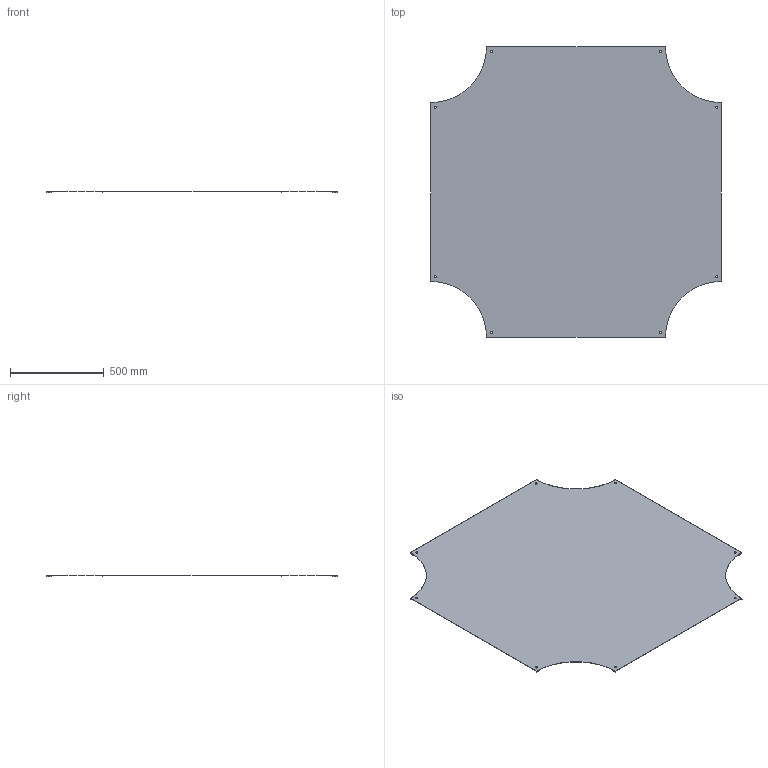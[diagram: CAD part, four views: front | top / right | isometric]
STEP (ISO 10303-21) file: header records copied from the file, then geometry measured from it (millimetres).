
FILE_DESCRIPTION(/* description */ ('','CAx-IF Rec.Pracs.---Representation and Presentation of Product Manufacturing Information (PMI)---4.0---2014-10-13'),/* implementation_level */ '2;1');
FILE_NAME(/* name */ 'Eurostrut_ECOC900-300_Cover Crossover for Cable Ladder ECL.step',/* time_stamp */ '2026-09-10T10:50:37+02:00',/* author */ (''),/* organization */ (''),/* preprocessor_version */ 'ST-DEVELOPER v20.1',/* originating_system */ 'Autodesk Revit 2027 27.2.0.39',/* authorisation */ '');
FILE_SCHEMA (('AP242_MANAGED_MODEL_BASED_3D_ENGINEERING_MIM_LF { 1 0 10303 442 2 1 4 }'));
Length unit declared in the file: millimetre
Products named in the file (6): TopLevelAssembly; Joined Solid Geometry; Joined Solid Geometry_1; Joined Solid Geometry_2; Joined Solid Geometry_3; Joined Solid Geometry_4
Assembly tree (5 placements, depth 2):
  TopLevelAssembly
    Joined Solid Geometry
    Joined Solid Geometry_1
    Joined Solid Geometry_2
    Joined Solid Geometry_3
    Joined Solid Geometry_4
Bounding box: 1550 x 1550 x 9 mm (x, y, z)
Volume: 3185175.7 mm3; surface area: 4256590.2 mm2
Topology: 9 solids, 9 shells, 74 faces, 168 edges, 112 vertices
Faces by surface type: plane 38, cylinder 36
Entity records: 2242 total; most frequent: DIRECTION 410, CARTESIAN_POINT 365, ORIENTED_EDGE 336, EDGE_CURVE 168, AXIS2_PLACEMENT_3D 157, VERTEX_POINT 112, LINE 96, VECTOR 96
